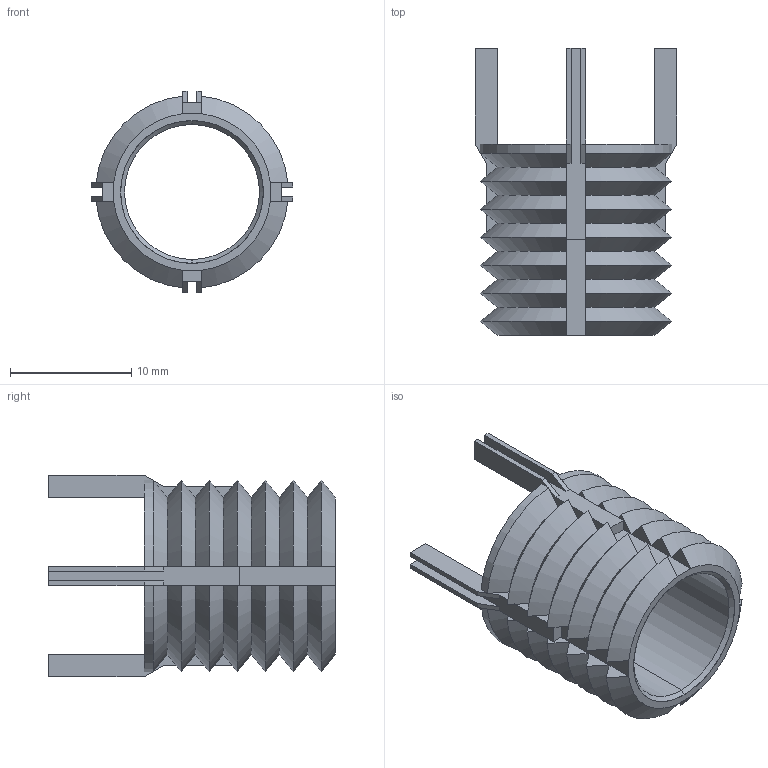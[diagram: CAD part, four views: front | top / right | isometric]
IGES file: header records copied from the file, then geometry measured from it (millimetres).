
Start section: SolidWorks IGES file using analytic representation for surfaces
Global section: file name: C:\Users\IanO\Desktop\TR1575\TR1575_v2_20230420_IGES\TR1575.66105.igs; native system: SolidWorks 2019; preprocessor: SolidWorks 2019; author: IanO; date: 230420.093418; units: inch
Bounding box: 16.59 x 23.62 x 16.59 mm (x, y, z)
Surface area: 2287.9 mm2 (no closed solid volume)
Topology: 0 solids, 0 shells, 172 faces, 872 edges, 872 vertices
Faces by surface type: bspline 110, revolution 62
